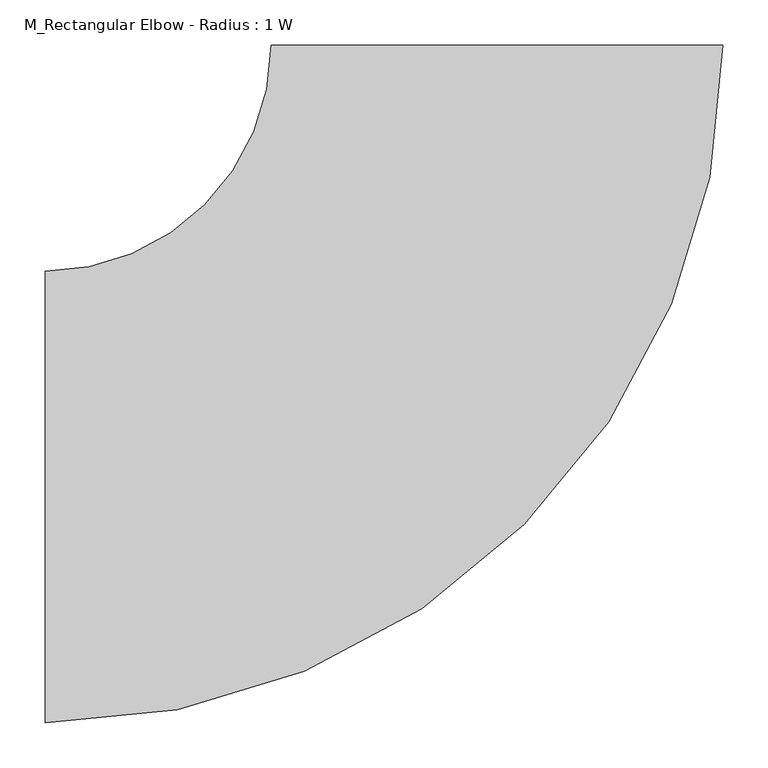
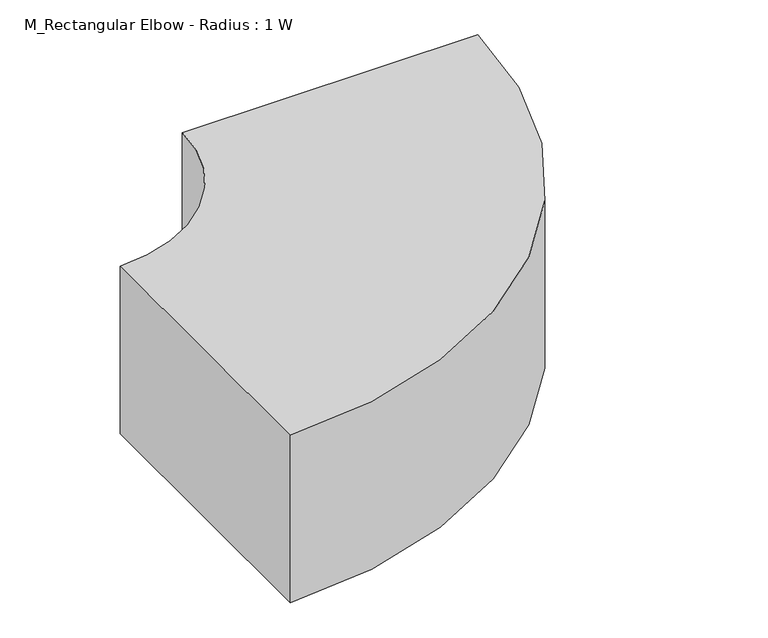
"""IFC4 building model written with IfcOpenShell, lengths in millimetres: duct fitting geometry, M_Rectangular Elbow - Radius : 1 W."""

from ifc_helpers import new_model, si_unit, point, frame, frame_2d, origin, place, context, project, spatial, polyline, circle_curve, trimmed, segment, composite_curve, outline, extrude, source, transform, mapped, element, save


def m_rectangular_elbow_radius_1_w_abe20169(model_context):
    return source(origin(), model_context, "Body", "SweptSolid", [
        extrude(outline(composite_curve([segment(trimmed(circle_curve(frame_2d((-500.0, 500.0)), 750.0), [point((250.0, 500.0))], [point((-500.0, -250.0))], False, "CARTESIAN"), True, "CONTINUOUS"), segment(polyline([(-500.0, -250.0), (-500.0, 250.0)]), True, "CONTINUOUS"), segment(trimmed(circle_curve(frame_2d((-500.0, 500.0)), 250.0), [point((-500.0, 250.0))], [point((-250.0, 500.0))], True, "CARTESIAN"), True, "CONTINUOUS"), segment(polyline([(-250.0, 500.0), (250.0, 500.0)]), True, "CONTINUOUS")], self_intersect=False)), frame((0.0, 0.0, -150.0), z_axis=(0.0, 0.0, 1.0), x_axis=(1.0, 0.0, 0.0)), (0.0, 0.0, 1.0), 300.0),
    ])


if __name__ == "__main__":
    model = new_model("IFC4")
    model_context = context("Model", 3, world=origin())
    ifc_project = project(units=[si_unit("LENGTHUNIT", "METRE", prefix="MILLI")], contexts=[model_context])
    site = spatial("IfcSite", under=ifc_project)
    building = spatial("IfcBuilding", under=site)
    placement = place(None, origin())
    m_rectangular_elbow_radius_1_w_shape = m_rectangular_elbow_radius_1_w_abe20169(model_context)
    element("IfcDuctFitting", 1, ObjectType="M_Rectangular Elbow - Radius : 1 W", at=placement, inside=building, context=model_context, shape_type="MappedRepresentation", body=[
        mapped(m_rectangular_elbow_radius_1_w_shape, transform((0.0, 0.0, 0.0), x_axis=(1.0, 0.0, 0.0), y_axis=(0.0, 1.0, 0.0), z_axis=(0.0, 0.0, 1.0))),
    ])
    save(model, "model.ifc")
